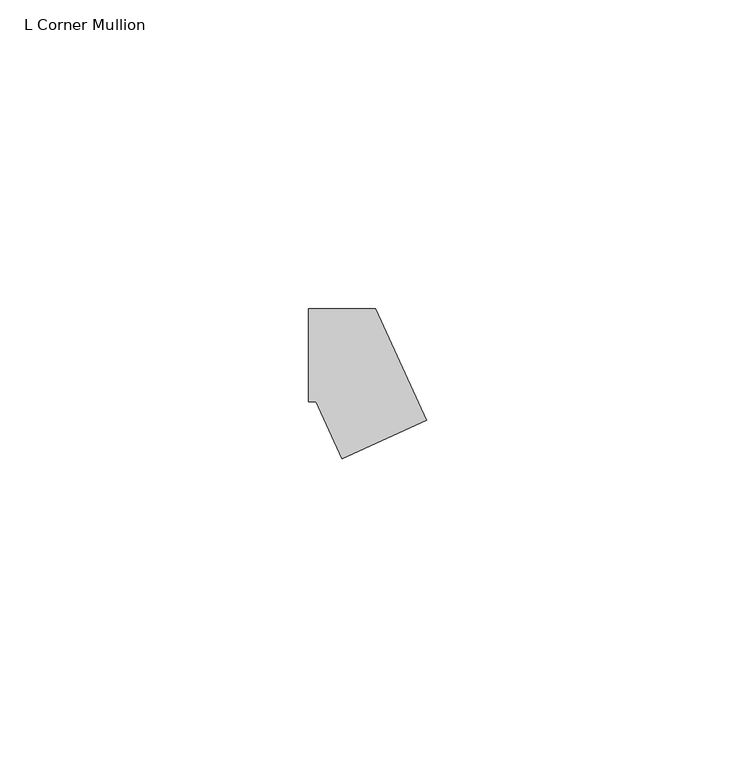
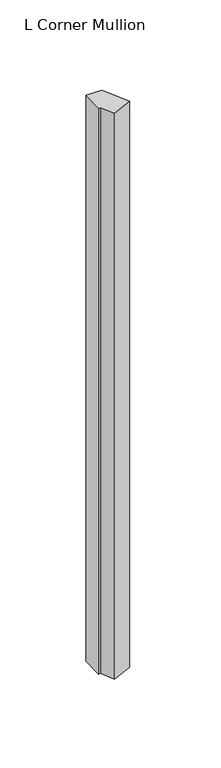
"""IFC4 building model written with IfcOpenShell, lengths in millimetres: member geometry, L Corner Mullion : ARQ_HERR_15X6mm."""

from ifc_helpers import new_model, si_unit, frame, origin, place, context, project, spatial, polyline, outline, extrude, source, transform, mapped, element, save


def l_corner_mullion_eece8d42(model_context):
    return source(origin(), model_context, "Body", "SweptSolid", [
        extrude(outline(polyline([(-0.5775282, -16.7605627), (-4.8156946, -7.5), (-6.0, -7.5), (-6.0, 7.5), (4.8156946, 7.5), (13.0619332, -10.5183601), (-0.5775282, -16.7605627)])), frame((0.0, 0.0, -401.4979805), z_axis=(0.0, 0.0, 1.0), x_axis=(1.0, 0.0, 0.0)), (0.0, 0.0, 1.0), 401.4979805),
    ])


if __name__ == "__main__":
    model = new_model("IFC4")
    model_context = context("Model", 3, world=origin())
    ifc_project = project(units=[si_unit("LENGTHUNIT", "METRE", prefix="MILLI")], contexts=[model_context])
    site = spatial("IfcSite", under=ifc_project)
    building = spatial("IfcBuilding", under=site)
    placement = place(None, origin())
    l_corner_mullion_shape = l_corner_mullion_eece8d42(model_context)
    element("IfcMember", 1, ObjectType="L Corner Mullion : ARQ_HERR_15X6mm", at=placement, inside=building, context=model_context, shape_type="MappedRepresentation", body=[
        mapped(l_corner_mullion_shape, transform((0.0, 0.0, 0.0), x_axis=(1.0, 0.0, 0.0), y_axis=(0.0, 1.0, 0.0), z_axis=(0.0, 0.0, 1.0))),
    ])
    save(model, "model.ifc")
